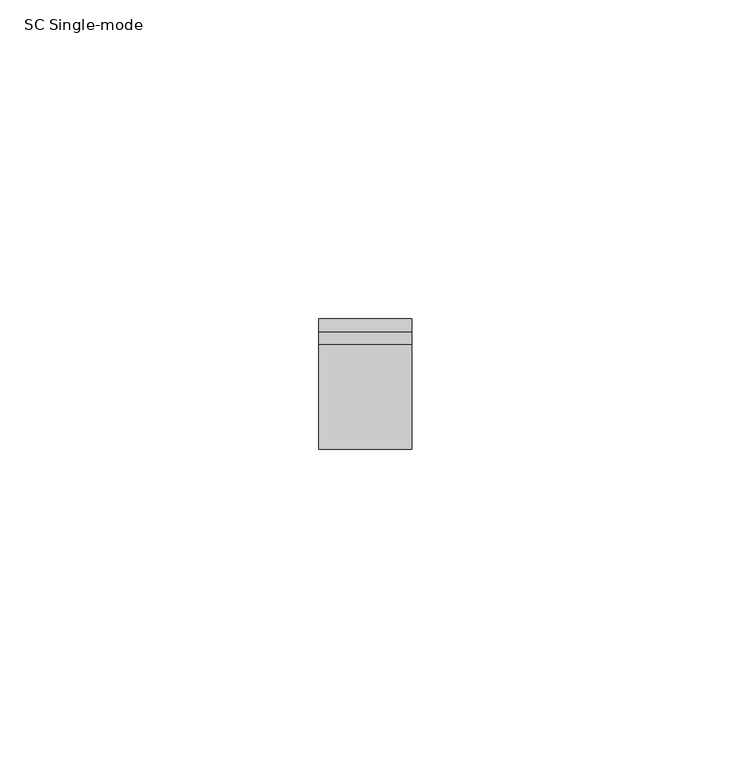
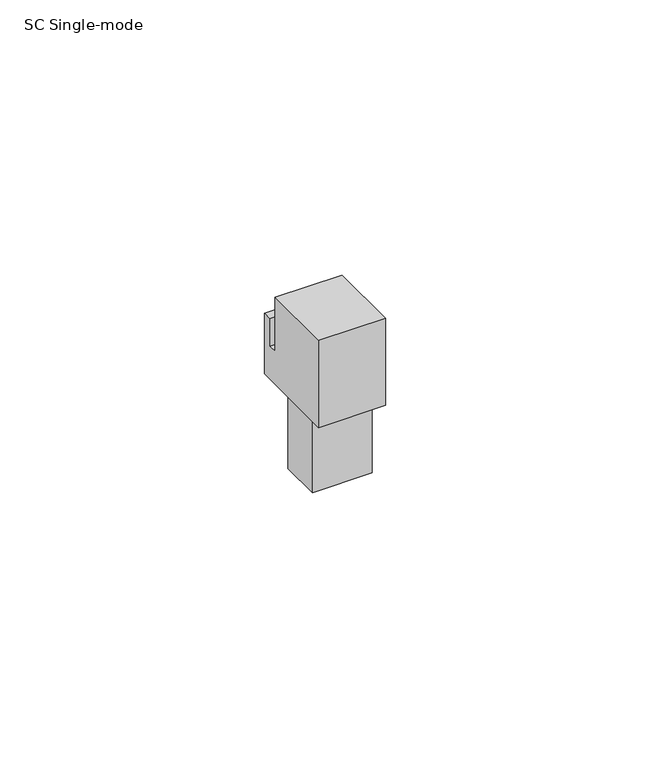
"""IFC4 building model written with IfcOpenShell, lengths in millimetres: electric appliance geometry, Data_Device-Network-Leviton-QuickPort-Adapter-Fiber : SC Single-mode."""

from ifc_helpers import new_model, si_unit, frame, origin, place, context, project, spatial, polyline, outline, extrude, source, transform, mapped, element, save


def sc_single_mode_4f79853f(model_context):
    return source(origin(), model_context, "Body", "SweptSolid", [
        extrude(outline(polyline([(6.5405, 12.7638006), (6.5405, 3.6191994), (-6.5405, 3.6191994), (-6.5405, 12.7638006), (6.5405, 12.7638006)])), frame((0.0, 0.0, -37.592), z_axis=(0.0, 0.0, 1.0), x_axis=(1.0, 0.0, 0.0)), (0.0, 0.0, 1.0), 36.83),
        extrude(outline(polyline([(0.0, 0.0254), (16.383, 0.0254), (16.383, -12.446), (18.415, -12.446), (18.415, -6.096), (20.447, -6.096), (20.447, -20.066), (0.0, -20.066), (0.0, 0.0254)])), frame((-7.3025, 0.0, 0.0), z_axis=(1.0, 0.0, 0.0), x_axis=(0.0, 1.0, 0.0)), (0.0, 0.0, 1.0), 14.605),
    ])


if __name__ == "__main__":
    model = new_model("IFC4")
    model_context = context("Model", 3, world=origin())
    ifc_project = project(units=[si_unit("LENGTHUNIT", "METRE", prefix="MILLI")], contexts=[model_context])
    site = spatial("IfcSite", under=ifc_project)
    building = spatial("IfcBuilding", under=site)
    placement = place(None, origin())
    sc_single_mode_shape = sc_single_mode_4f79853f(model_context)
    element("IfcElectricAppliance", 1, ObjectType="Data_Device-Network-Leviton-QuickPort-Adapter-Fiber : SC Single-mode", at=placement, inside=building, context=model_context, shape_type="MappedRepresentation", body=[
        mapped(sc_single_mode_shape, transform((0.0, 0.0, 0.0), x_axis=(1.0, 0.0, 0.0), y_axis=(0.0, 1.0, 0.0), z_axis=(0.0, 0.0, 1.0))),
    ])
    save(model, "model.ifc")
